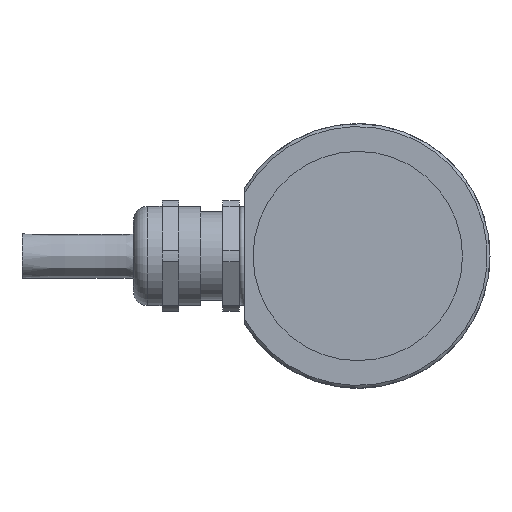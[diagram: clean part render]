
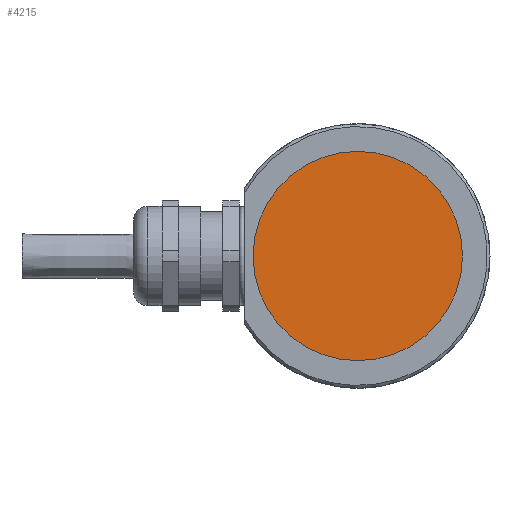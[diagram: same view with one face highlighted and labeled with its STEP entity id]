
A CAD part, left-side view. The second image highlights one B-rep face of the part: STEP entity #4215.
In plain terms, the highlighted planar face has unit normal (-1, 0, 0).
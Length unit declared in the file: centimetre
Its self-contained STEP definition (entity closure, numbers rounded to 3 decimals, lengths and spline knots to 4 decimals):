
#719=PLANE('',#4476);
#1428=CIRCLE('',#4475,1.9);
#1748=VERTEX_POINT('',#6543);
#2296=EDGE_CURVE('',#1748,#1748,#1428,.T.);
#3129=ORIENTED_EDGE('',*,*,#2296,.T.);
#3745=EDGE_LOOP('',(#3129));
#3985=FACE_BOUND('',#3745,.T.);
#4215=ADVANCED_FACE('',(#3985),#719,.F.);
#4475=AXIS2_PLACEMENT_3D('',#6542,#5055,#5056);
#4476=AXIS2_PLACEMENT_3D('',#6544,#5057,$);
#5055=DIRECTION('',(-1.,0.,0.));
#5056=DIRECTION('',(0.,0.,-1.9));
#5057=DIRECTION('',(1.,0.,0.));
#6542=CARTESIAN_POINT('',(-4.1,0.,0.));
#6543=CARTESIAN_POINT('',(-4.1,0.,-1.9));
#6544=CARTESIAN_POINT('',(-4.1,0.,0.));
